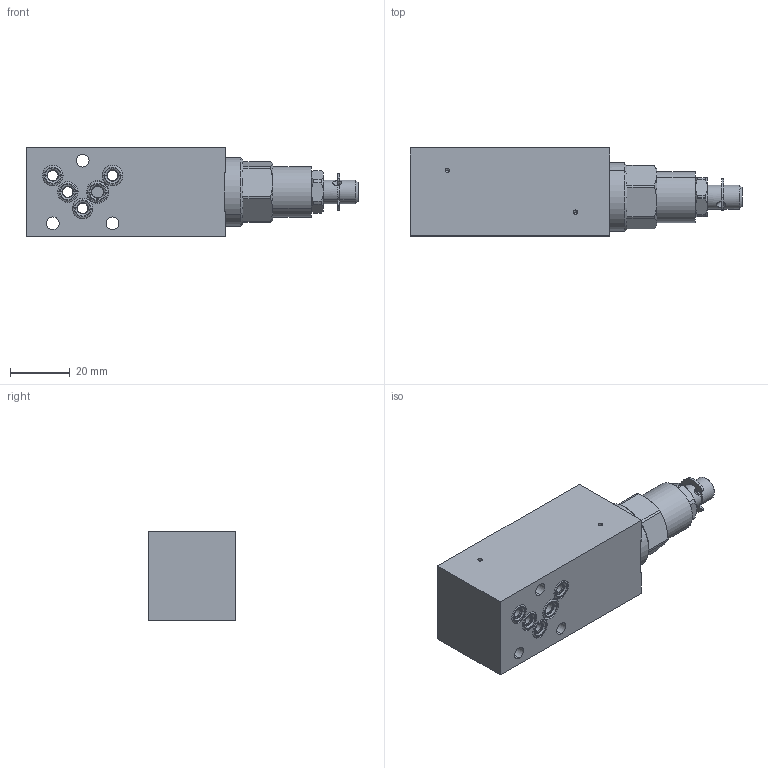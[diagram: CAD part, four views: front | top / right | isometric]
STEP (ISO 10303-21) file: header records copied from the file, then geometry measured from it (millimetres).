
FILE_DESCRIPTION (( 'STEP AP214' ), '1' );
FILE_NAME ('G.SSA03-B.STEP', '2017-03-23T07:32:35', ( '' ), ( '' ), 'SwSTEP 2.0', 'SolidWorks 2016', '' );
FILE_SCHEMA (( 'AUTOMOTIVE_DESIGN' ));
Length unit declared in the file: millimetre
Products named in the file (1): G.SSA03-B
Bounding box: 111.3 x 29.5 x 30 mm (x, y, z)
Volume: 65908.7 mm3; surface area: 15784.9 mm2
Topology: 8 solids, 11 shells, 313 faces, 757 edges, 467 vertices
Faces by surface type: cylinder 129, plane 94, cone 46, bspline 40, sphere 4
Entity records: 13480 total; most frequent: CARTESIAN_POINT 2828, DIRECTION 1511, ORIENTED_EDGE 1486, EDGE_CURVE 743, AXIS2_PLACEMENT_3D 620, VERTEX_POINT 467, EDGE_LOOP 360, CIRCLE 346
